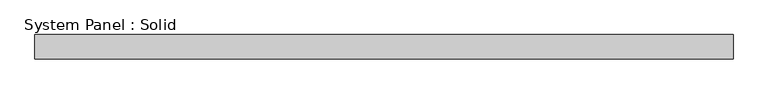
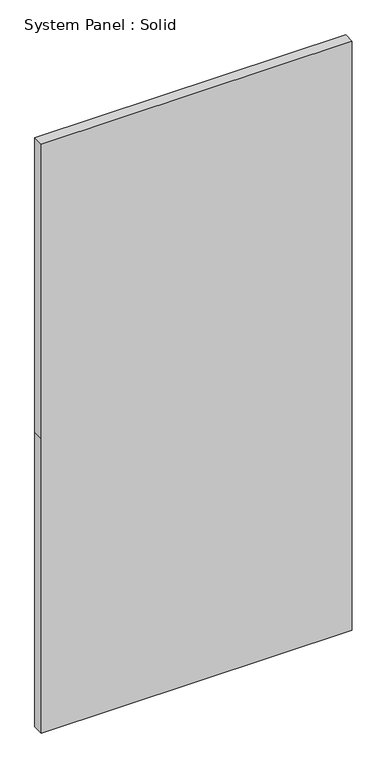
"""IFC4 building model written with IfcOpenShell, lengths in millimetres: plate geometry, System Panel : Solid."""

from ifc_helpers import new_model, si_unit, frame, origin, place, context, project, spatial, polyline, outline, extrude, source, transform, mapped, element, save


def system_panel_solid_e52a666d(model_context):
    return source(origin(), model_context, "Body", "SweptSolid", [
        extrude(outline(polyline([(0.0, -500.0000002), (0.0, 500.0000002), (1000.0, 500.0000002), (2000.0, 500.0000002), (2000.0, -500.0000002), (1000.0, -500.0000002), (0.0, -500.0000002)])), frame((0.0, -2.5, 0.0), z_axis=(0.0, 1.0, 0.0), x_axis=(0.0, 0.0, 1.0)), (0.0, 0.0, 1.0), 35.0),
    ])


if __name__ == "__main__":
    model = new_model("IFC4")
    model_context = context("Model", 3, world=origin())
    ifc_project = project(units=[si_unit("LENGTHUNIT", "METRE", prefix="MILLI")], contexts=[model_context])
    site = spatial("IfcSite", under=ifc_project)
    building = spatial("IfcBuilding", under=site)
    placement = place(None, origin())
    system_panel_solid_shape = system_panel_solid_e52a666d(model_context)
    element("IfcPlate", 1, ObjectType="System Panel : Solid", at=placement, inside=building, context=model_context, shape_type="MappedRepresentation", body=[
        mapped(system_panel_solid_shape, transform((0.0, 0.0, 0.0), x_axis=(1.0, 0.0, 0.0), y_axis=(0.0, 1.0, 0.0), z_axis=(0.0, 0.0, 1.0))),
    ])
    save(model, "model.ifc")
